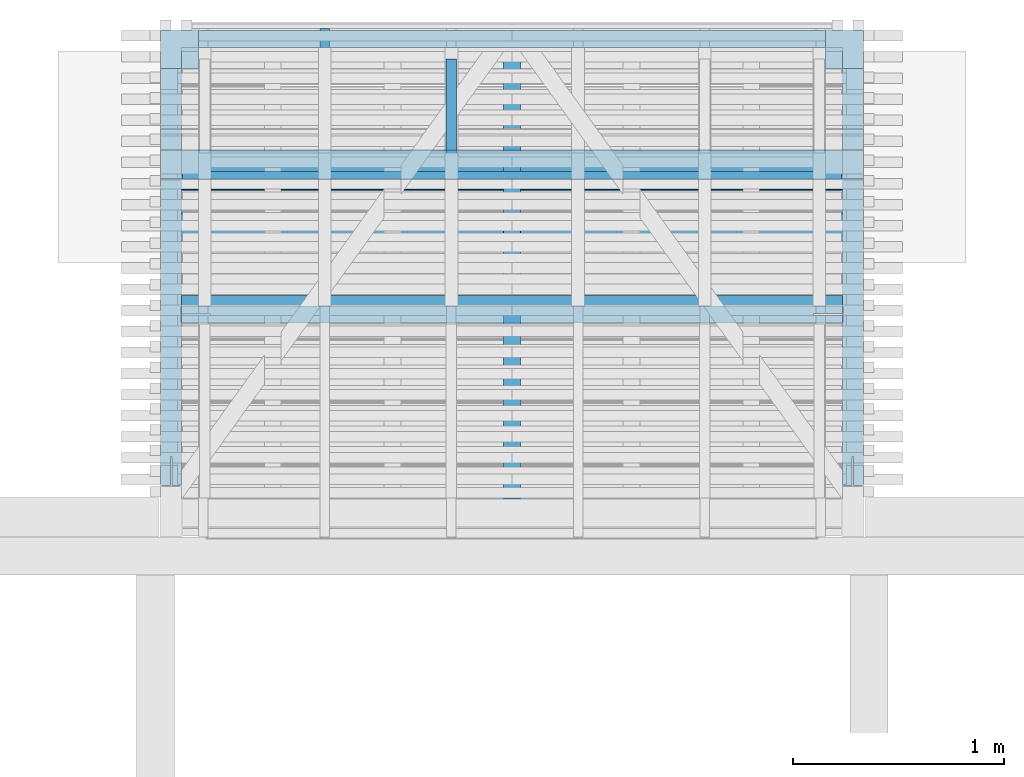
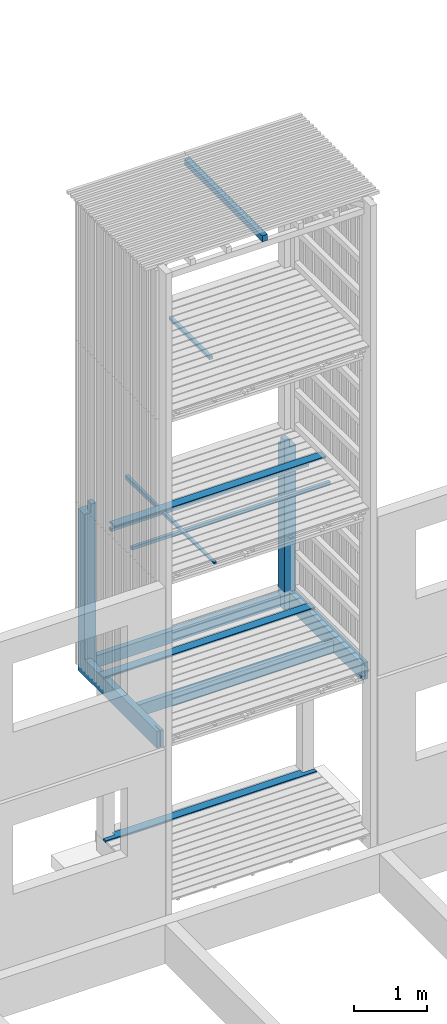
# One storey, part 22 of 182: 9 beams.
"""IFC2X3 building model written with IfcOpenShell, lengths in metres."""

from ifc_helpers import new_model, si_unit, frame, origin, place, context, project, spatial, faceted_brep, element, save


model = new_model("IFC2X3")

# Units and contexts
model_context = context("Model", 3, precision=1e-06, world=origin())
ifc_project = project(units=[si_unit("LENGTHUNIT", "METRE"), si_unit("PLANEANGLEUNIT", "RADIAN")], contexts=[model_context])

# Site, building, storey
site = spatial("IfcSite", under=ifc_project, CompositionType="ELEMENT")
building = spatial("IfcBuilding", under=site, CompositionType="ELEMENT")
storey = spatial("IfcBuildingStorey", under=building, Name="vs", CompositionType="ELEMENT", Elevation=-0.85)

# Beams
placement = place(None, origin())
beam_1_placement = place(placement, frame((4.979197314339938, 10.650077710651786, 10.404999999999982), z_axis=(0.0, 0.0, 1.0), x_axis=(0.0, 1.0, 0.0)))
element("IfcBeam", 1, at=beam_1_placement, inside=storey, Name="Support bardage", context=model_context, shape_type="Brep", body=[
    faceted_brep([(2.120000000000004, -0.039999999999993, 0.050000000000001), (2.120000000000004, 0.040000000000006, 0.050000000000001), (3e-15, 0.040000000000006, 0.050000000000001), (3e-15, -0.039999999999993, 0.050000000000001), (3e-15, 0.040000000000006, 0.050000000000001), (2.120000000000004, 0.040000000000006, 0.050000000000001), (2.120000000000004, 0.040000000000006, -0.050000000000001), (3e-15, 0.040000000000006, -0.050000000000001), (2.120000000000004, 0.040000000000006, 0.050000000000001), (2.120000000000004, -0.039999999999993, 0.050000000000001), (2.120000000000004, -0.039999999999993, -0.050000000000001), (2.120000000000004, 0.040000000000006, -0.050000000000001), (2.120000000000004, -0.039999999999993, -0.050000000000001), (2.120000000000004, -0.039999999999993, 0.050000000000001), (3e-15, -0.039999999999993, 0.050000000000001), (3e-15, -0.039999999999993, -0.050000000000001), (3e-15, 0.040000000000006, -0.050000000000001), (2.120000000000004, 0.040000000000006, -0.050000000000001), (2.120000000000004, -0.039999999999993, -0.050000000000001), (3e-15, -0.039999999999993, -0.050000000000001), (3e-15, 0.040000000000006, 0.050000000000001), (3e-15, 0.040000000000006, -0.050000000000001), (3e-15, -0.039999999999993, -0.050000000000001), (3e-15, -0.039999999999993, 0.050000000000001)], [[[0, 1, 2, 3]], [[4, 5, 6, 7]], [[8, 9, 10, 11]], [[12, 13, 14, 15]], [[16, 17, 18, 19]], [[20, 21, 22, 23]]]),
])
beam_2_placement = place(placement, frame((3.414197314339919, 11.59007771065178, 5.217399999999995), z_axis=(0.0, 0.0, 1.0), x_axis=(1.0, 0.0, 0.0)))
element("IfcBeam", 2, at=beam_2_placement, inside=storey, Name="Ligneul", context=model_context, shape_type="Brep", body=[
    faceted_brep([(4e-15, -0.024999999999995, 0.024999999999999), (4e-15, -0.024999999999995, -0.025), (3.129999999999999, -0.024999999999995, -0.025), (3.129999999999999, -0.024999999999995, 0.024999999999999), (4e-15, 0.025000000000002, 0.024999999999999), (4e-15, -0.024999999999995, 0.024999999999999), (3.129999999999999, -0.024999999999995, 0.024999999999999), (3.129999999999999, 0.025000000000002, 0.024999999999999), (4e-15, -0.024999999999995, 0.024999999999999), (4e-15, 0.025000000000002, 0.024999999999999), (4e-15, 0.025000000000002, -0.025), (4e-15, -0.024999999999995, -0.025), (4e-15, 0.025000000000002, -0.025), (4e-15, 0.025000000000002, 0.024999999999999), (3.129999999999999, 0.025000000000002, 0.024999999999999), (3.129999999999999, 0.025000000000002, -0.025), (3.129999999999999, -0.024999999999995, -0.025), (4e-15, -0.024999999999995, -0.025), (4e-15, 0.025000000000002, -0.025), (3.129999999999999, 0.025000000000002, -0.025), (3.129999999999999, -0.024999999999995, 0.024999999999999), (3.129999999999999, -0.024999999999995, -0.025), (3.129999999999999, 0.025000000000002, -0.025), (3.129999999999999, 0.025000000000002, 0.024999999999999)], [[[0, 1, 2, 3]], [[4, 5, 6, 7]], [[8, 9, 10, 11]], [[12, 13, 14, 15]], [[16, 17, 18, 19]], [[20, 21, 22, 23]]]),
])
beam_3_placement = place(placement, frame((4.692197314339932, 12.735077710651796, 7.91739999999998), z_axis=(0.0, 0.0, 1.0), x_axis=(0.0, -1.0, 0.0)))
element("IfcBeam", 3, at=beam_3_placement, inside=storey, Name="Calage", context=model_context, shape_type="Brep", body=[
    faceted_brep([(1.115000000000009, 0.024999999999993, 0.024999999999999), (1.115000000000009, -0.025000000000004, 0.024999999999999), (1.115000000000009, -0.025000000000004, -0.025), (1.115000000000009, 0.024999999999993, -0.025), (0.0, -0.025000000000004, -0.025), (0.0, -0.025000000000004, 0.024999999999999), (0.0, 0.024999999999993, 0.024999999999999), (0.0, 0.024999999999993, -0.025), (1.115000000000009, -0.025000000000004, 0.024999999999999), (1.115000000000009, 0.024999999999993, 0.024999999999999), (0.0, 0.024999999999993, 0.024999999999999), (0.0, -0.025000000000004, 0.024999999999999), (1.115000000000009, -0.025000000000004, -0.025), (1.115000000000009, -0.025000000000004, 0.024999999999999), (0.0, -0.025000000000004, 0.024999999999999), (0.0, -0.025000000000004, -0.025), (1.115000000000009, 0.024999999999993, -0.025), (1.115000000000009, -0.025000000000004, -0.025), (0.0, -0.025000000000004, -0.025), (0.0, 0.024999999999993, -0.025), (0.0, 0.024999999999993, 0.024999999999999), (1.115000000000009, 0.024999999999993, 0.024999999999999), (1.115000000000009, 0.024999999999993, -0.025), (0.0, 0.024999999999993, -0.025)], [[[0, 1, 2, 3]], [[4, 5, 6, 7]], [[8, 9, 10, 11]], [[12, 13, 14, 15]], [[16, 17, 18, 19]], [[20, 21, 22, 23]]]),
])
beam_4_placement = place(placement, frame((4.979197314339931, 11.792577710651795, 2.437999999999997), z_axis=(0.0, -1.0, 0.0), x_axis=(0.0, 0.0, 1.0)))
element("IfcBeam", 4, at=beam_4_placement, inside=storey, Name="Poteau", context=model_context, shape_type="Brep", body=[
    faceted_brep([(2.841999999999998, -1.564999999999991, -0.997499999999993), (2.701999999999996, -1.564999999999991, -0.997499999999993), (2.701999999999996, -1.484999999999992, -0.997499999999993), (2.841999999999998, -1.484999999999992, -0.997499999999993), (2.701999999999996, 1.664999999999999, -1.077499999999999), (2.701999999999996, 1.485000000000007, -1.077499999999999), (0.202000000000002, 1.485000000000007, -1.077499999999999), (0.202000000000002, -1.484999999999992, -1.077499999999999), (2.701999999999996, -1.484999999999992, -1.077499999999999), (2.701999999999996, -1.664999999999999, -1.077499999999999), (0.002000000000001, -1.664999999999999, -1.077499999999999), (0.002000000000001, 1.664999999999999, -1.077499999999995), (0.282000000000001, -1.664999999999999, 1.077499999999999), (0.002000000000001, -1.664999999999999, 1.077499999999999), (0.002000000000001, -1.664999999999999, -1.077499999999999), (2.701999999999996, -1.664999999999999, -1.077499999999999), (2.701999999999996, -1.664999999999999, -0.897499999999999), (0.282000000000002, -1.664999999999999, -0.897499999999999), (2.701999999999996, -1.664999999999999, -0.897499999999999), (2.701999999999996, -1.664999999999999, -1.077499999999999), (2.701999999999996, -1.484999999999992, -1.077499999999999), (2.701999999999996, -1.484999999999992, -0.997499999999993), (2.701999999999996, -1.564999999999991, -0.997499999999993), (2.701999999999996, -1.564999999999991, -0.897499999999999), (2.701999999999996, -1.564999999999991, -0.897499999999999), (2.701999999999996, -1.564999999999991, -0.997499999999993), (2.841999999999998, -1.564999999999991, -0.997499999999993), (2.841999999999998, -1.564999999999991, -0.897499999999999), (2.841999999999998, -1.564999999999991, -0.897499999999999), (2.841999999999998, -1.564999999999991, -0.997499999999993), (2.841999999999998, -1.484999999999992, -0.997499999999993), (2.841999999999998, -1.484999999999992, -0.897499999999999), (0.002000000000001, -1.564999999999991, -0.897499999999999), (0.282000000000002, -1.564999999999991, -0.897499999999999), (0.282000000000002, -1.664999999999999, -0.897499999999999), (2.701999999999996, -1.664999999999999, -0.897499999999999), (2.701999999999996, -1.564999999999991, -0.897499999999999), (2.841999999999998, -1.564999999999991, -0.897499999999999), (2.841999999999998, -1.484999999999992, -0.897499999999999), (0.002000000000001, -1.484999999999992, -0.897499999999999), (0.202000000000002, -1.484999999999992, -0.997499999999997), (0.002000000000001, -1.484999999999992, -0.997499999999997), (0.002000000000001, -1.484999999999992, -0.897499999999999), (2.841999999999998, -1.484999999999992, -0.897499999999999), (2.841999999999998, -1.484999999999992, -0.997499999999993), (2.701999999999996, -1.484999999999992, -0.997499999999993), (2.701999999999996, -1.484999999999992, -1.077499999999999), (0.202000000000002, -1.484999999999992, -1.077499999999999), (2.841999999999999, 1.565000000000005, -0.897499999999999), (2.701999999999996, 1.565000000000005, -0.897499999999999), (2.701999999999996, 1.664999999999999, -0.897499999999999), (0.282000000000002, 1.664999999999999, -0.897499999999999), (0.282000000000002, 1.565000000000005, -0.897499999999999), (0.002000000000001, 1.565000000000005, -0.897499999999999), (0.002000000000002, 1.485000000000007, -0.897499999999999), (2.841999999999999, 1.485000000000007, -0.897499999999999), (2.841999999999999, 1.485000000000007, -0.997499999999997), (2.841999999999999, 1.485000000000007, -0.897499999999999), (0.002000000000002, 1.485000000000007, -0.897499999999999), (0.002000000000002, 1.485000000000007, -0.997500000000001), (0.202000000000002, 1.485000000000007, -0.997500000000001), (0.202000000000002, 1.485000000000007, -1.077499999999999), (2.701999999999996, 1.485000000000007, -1.077499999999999), (2.701999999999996, 1.485000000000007, -0.997499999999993), (2.701999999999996, 1.664999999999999, -1.077499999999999), (0.002000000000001, 1.664999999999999, -1.077499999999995), (0.002000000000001, 1.664999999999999, 1.077499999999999), (0.282000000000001, 1.664999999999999, 1.077499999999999), (0.282000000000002, 1.664999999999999, -0.897499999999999), (2.701999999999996, 1.664999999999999, -0.897499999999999), (0.202000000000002, 1.485000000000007, -0.997500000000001), (0.002000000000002, 1.485000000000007, -0.997500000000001), (0.002000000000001, -1.484999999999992, -0.997499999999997), (0.202000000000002, -1.484999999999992, -0.997499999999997), (0.202000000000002, -1.484999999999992, -1.077499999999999), (0.202000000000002, 1.485000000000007, -1.077499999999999), (0.202000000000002, 1.485000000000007, -0.997500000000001), (0.202000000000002, -1.484999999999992, -0.997499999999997), (0.002000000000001, -1.42799999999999, 0.263500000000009), (0.002, -1.564999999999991, 0.263500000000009), (0.177, -1.564999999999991, 0.263500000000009), (0.202000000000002, -1.564999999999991, 0.263500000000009), (0.202000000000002, -1.42799999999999, 0.263500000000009), (0.002000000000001, -1.42799999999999, 0.271500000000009), (0.002000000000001, -1.42799999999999, 0.263500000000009), (0.202000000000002, -1.42799999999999, 0.263500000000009), (0.202000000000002, -1.42799999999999, 0.271500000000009), (0.177, -1.564999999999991, 0.271500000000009), (0.002, -1.564999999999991, 0.271500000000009), (0.002000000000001, -1.42799999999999, 0.271500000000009), (0.202000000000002, -1.42799999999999, 0.271500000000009), (0.202000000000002, -1.564999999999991, 0.271500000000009), (0.177, -1.564999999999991, 0.263500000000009), (0.002, -1.564999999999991, 0.263500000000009), (0.002, -1.564999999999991, 0.22950000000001), (0.177, -1.564999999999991, 0.22950000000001), (0.202000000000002, -1.564999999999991, 0.271500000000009), (0.202000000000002, -1.42799999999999, 0.271500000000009), (0.202000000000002, -1.42799999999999, 0.263500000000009), (0.202000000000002, -1.564999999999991, 0.263500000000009), (0.202000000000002, -1.564999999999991, 0.227500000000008), (0.202000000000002, 1.565000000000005, 0.227500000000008), (0.202000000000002, 1.565000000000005, 0.30750000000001), (0.202000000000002, -1.564999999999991, 0.30750000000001), (0.002000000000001, 1.565000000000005, 0.227500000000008), (0.202000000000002, 1.565000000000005, 0.227500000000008), (0.202000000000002, -1.564999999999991, 0.227500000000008), (0.002, -1.564999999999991, 0.227500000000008), (0.202000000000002, -1.564999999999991, 0.30750000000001), (0.202000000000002, 1.565000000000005, 0.30750000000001), (0.002000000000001, 1.565000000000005, 0.30750000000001), (0.002, -1.564999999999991, 0.30750000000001), (0.002, -1.564999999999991, 0.305500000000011), (0.002, -1.564999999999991, 0.271500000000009), (0.177, -1.564999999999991, 0.271500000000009), (0.177, -1.564999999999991, 0.305500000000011), (0.002, -1.564999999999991, 0.227500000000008), (0.202000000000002, -1.564999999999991, 0.227500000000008), (0.202000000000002, -1.564999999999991, 0.263500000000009), (0.177, -1.564999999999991, 0.263500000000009), (0.177, -1.564999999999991, 0.271500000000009), (0.202000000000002, -1.564999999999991, 0.271500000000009), (0.202000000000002, -1.564999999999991, 0.30750000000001), (0.002, -1.564999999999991, 0.30750000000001), (0.002000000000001, -1.564999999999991, 1.077499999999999), (0.282000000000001, -1.564999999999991, 1.077499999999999), (0.282000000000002, -1.564999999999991, -0.897499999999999), (0.002000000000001, -1.564999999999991, -0.897499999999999), (0.002, -1.569999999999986, 0.22950000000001), (0.002, -1.569999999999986, 0.305500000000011), (0.177, -1.569999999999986, 0.305500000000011), (0.177, -1.569999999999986, 0.22950000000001), (0.177, -1.564999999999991, 0.271500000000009), (0.177, -1.564999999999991, 0.263500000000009), (0.177, -1.564999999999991, 0.22950000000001), (0.177, -1.569999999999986, 0.22950000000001), (0.177, -1.569999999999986, 0.305500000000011), (0.177, -1.564999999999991, 0.305500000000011), (0.177, -1.564999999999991, 0.22950000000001), (0.002, -1.564999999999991, 0.22950000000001), (0.002, -1.569999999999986, 0.22950000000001), (0.177, -1.569999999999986, 0.22950000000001), (0.177, -1.569999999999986, 0.305500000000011), (0.002, -1.569999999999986, 0.305500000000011), (0.002, -1.564999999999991, 0.305500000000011), (0.177, -1.564999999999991, 0.305500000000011), (0.002000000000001, -1.610999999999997, 0.940500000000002), (0.002000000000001, -1.618999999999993, 0.940500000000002), (0.282000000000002, -1.618999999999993, 0.940500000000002), (0.282000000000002, -1.610999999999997, 0.940500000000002), (0.282000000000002, -1.618999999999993, 0.940500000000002), (0.002000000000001, -1.618999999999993, 0.940500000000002), (0.002000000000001, -1.618999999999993, 1.077499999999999), (0.282000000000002, -1.618999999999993, 1.077500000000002), (0.002000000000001, -1.664999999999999, 1.077499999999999), (0.282000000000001, -1.664999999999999, 1.077499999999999), (0.282000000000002, -1.618999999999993, 1.077500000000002), (0.002000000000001, -1.618999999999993, 1.077499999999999), (0.282000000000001, -1.564999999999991, 1.077499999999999), (0.002000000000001, -1.564999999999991, 1.077499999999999), (0.002000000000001, -1.610999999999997, 1.077499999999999), (0.282000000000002, -1.610999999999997, 1.077500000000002), (0.282000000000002, -1.610999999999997, 1.077500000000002), (0.002000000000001, -1.610999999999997, 1.077499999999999), (0.002000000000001, -1.610999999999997, 0.940500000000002), (0.282000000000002, -1.610999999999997, 0.940500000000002), (0.282000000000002, -1.564999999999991, -0.897499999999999), (0.282000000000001, -1.564999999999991, 1.077499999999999), (0.282000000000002, -1.610999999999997, 1.077500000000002), (0.282000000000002, -1.610999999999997, 0.940500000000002), (0.282000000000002, -1.618999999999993, 0.940500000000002), (0.282000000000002, -1.618999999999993, 1.077500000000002), (0.282000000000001, -1.664999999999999, 1.077499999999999), (0.282000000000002, -1.664999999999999, -0.897499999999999), (0.002000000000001, 1.619000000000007, 0.940499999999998), (0.002000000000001, 1.611000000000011, 0.940499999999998), (0.282000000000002, 1.611000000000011, 0.940499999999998), (0.282000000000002, 1.619000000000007, 0.940499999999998), (0.282000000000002, 1.611000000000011, 0.940499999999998), (0.002000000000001, 1.611000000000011, 0.940499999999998), (0.002000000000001, 1.611000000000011, 1.077499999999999), (0.282000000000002, 1.611000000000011, 1.077499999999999), (0.002000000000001, 1.565000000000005, 1.077499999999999), (0.282000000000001, 1.565000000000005, 1.077499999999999), (0.282000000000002, 1.611000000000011, 1.077499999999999), (0.002000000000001, 1.611000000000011, 1.077499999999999), (0.282000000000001, 1.664999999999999, 1.077499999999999), (0.002000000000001, 1.664999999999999, 1.077499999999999), (0.002000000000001, 1.619000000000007, 1.077499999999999), (0.282000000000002, 1.619000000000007, 1.077499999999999), (0.282000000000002, 1.619000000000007, 1.077499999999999), (0.002000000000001, 1.619000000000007, 1.077499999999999), (0.002000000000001, 1.619000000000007, 0.940499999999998), (0.282000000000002, 1.619000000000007, 0.940499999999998), (0.282000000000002, 1.664999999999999, -0.897499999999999), (0.282000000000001, 1.664999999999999, 1.077499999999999), (0.282000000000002, 1.619000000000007, 1.077499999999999), (0.282000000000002, 1.619000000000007, 0.940499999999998), (0.282000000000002, 1.611000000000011, 0.940499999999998), (0.282000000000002, 1.611000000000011, 1.077499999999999), (0.282000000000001, 1.565000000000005, 1.077499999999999), (0.282000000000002, 1.565000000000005, -0.897499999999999), (0.202000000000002, 1.565000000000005, 0.227500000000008), (0.002000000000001, 1.565000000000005, 0.227500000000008), (0.002000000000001, 1.565000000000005, -0.897499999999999), (0.282000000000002, 1.565000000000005, -0.897499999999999), (0.282000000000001, 1.565000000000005, 1.077499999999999), (0.002000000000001, 1.565000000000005, 1.077499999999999), (0.002000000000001, 1.565000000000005, 0.30750000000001), (0.202000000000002, 1.565000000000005, 0.30750000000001), (0.002, 1.442250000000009, 0.249000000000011), (0.002, 1.442250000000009, 0.28600000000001), (1e-15, 1.442250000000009, 0.28600000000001), (1e-15, 1.442250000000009, 0.249000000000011), (0.002, 1.442250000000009, 0.249000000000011), (1e-15, 1.442250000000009, 0.249000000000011), (0.0, 1.565750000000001, 0.249000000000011), (0.002, 1.565750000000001, 0.249000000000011), (1e-15, 1.442250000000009, 0.28600000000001), (0.002, 1.442250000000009, 0.28600000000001), (0.002, 1.565750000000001, 0.28600000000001), (0.0, 1.565750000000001, 0.28600000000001), (1e-15, 1.442250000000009, 0.249000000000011), (1e-15, 1.442250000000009, 0.28600000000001), (0.0, 1.565750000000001, 0.28600000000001), (0.0, 1.565750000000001, 0.249000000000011), (0.0, 1.565750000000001, 0.249000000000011), (0.0, 1.565750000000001, 0.28600000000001), (0.002, 1.565750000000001, 0.28600000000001), (0.002, 1.565750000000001, 0.249000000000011), (0.002000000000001, 1.565000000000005, 0.30750000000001), (0.002000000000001, 1.565000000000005, 1.077499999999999), (0.002000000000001, 1.611000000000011, 1.077499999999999), (0.002000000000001, 1.611000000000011, 0.940499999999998), (0.002000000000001, 1.619000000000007, 0.940499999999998), (0.002000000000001, 1.619000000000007, 1.077499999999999), (0.002000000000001, 1.664999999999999, 1.077499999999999), (0.002000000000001, 1.664999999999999, -1.077499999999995), (0.002000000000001, -1.664999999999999, -1.077499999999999), (0.002000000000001, -1.664999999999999, 1.077499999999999), (0.002000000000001, -1.618999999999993, 1.077499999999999), (0.002000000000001, -1.618999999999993, 0.940500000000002), (0.002000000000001, -1.610999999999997, 0.940500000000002), (0.002000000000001, -1.610999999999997, 1.077499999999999), (0.002000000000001, -1.564999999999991, 1.077499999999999), (0.002, -1.564999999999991, 0.30750000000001), (0.002, -1.564999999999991, 0.271500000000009), (0.002, -1.564999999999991, 0.305500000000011), (0.002, -1.569999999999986, 0.305500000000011), (0.002, -1.569999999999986, 0.22950000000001), (0.002, -1.564999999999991, 0.22950000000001), (0.002, -1.564999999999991, 0.263500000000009), (0.002000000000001, -1.42799999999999, 0.263500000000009), (0.002000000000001, -1.42799999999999, 0.271500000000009), (0.002000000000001, 1.565000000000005, -0.897499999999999), (0.002000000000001, 1.565000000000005, 0.227500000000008), (0.002, -1.564999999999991, 0.227500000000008), (0.002000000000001, -1.564999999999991, -0.897499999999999), (0.002000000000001, -1.484999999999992, -0.897499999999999), (0.002000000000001, -1.484999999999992, -0.997499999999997), (0.002000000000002, 1.485000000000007, -0.997500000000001), (0.002000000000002, 1.485000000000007, -0.897499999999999), (0.002, 1.565750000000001, 0.249000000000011), (0.002, 1.565750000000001, 0.28600000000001), (0.002, 1.442250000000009, 0.28600000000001), (0.002, 1.442250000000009, 0.249000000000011), (2.841999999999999, 1.485000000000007, -0.997499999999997), (2.701999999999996, 1.485000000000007, -0.997499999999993), (2.701999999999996, 1.565000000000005, -0.997499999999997), (2.841999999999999, 1.565000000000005, -0.997499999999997), (2.841999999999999, 1.565000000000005, -0.897499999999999), (2.841999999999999, 1.485000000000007, -0.897499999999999), (2.841999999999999, 1.485000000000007, -0.997499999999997), (2.841999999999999, 1.565000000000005, -0.997499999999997), (2.701999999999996, 1.565000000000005, -0.897499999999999), (2.841999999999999, 1.565000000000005, -0.897499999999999), (2.841999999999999, 1.565000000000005, -0.997499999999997), (2.701999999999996, 1.565000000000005, -0.997499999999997), (2.701999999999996, 1.664999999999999, -1.077499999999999), (2.701999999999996, 1.664999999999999, -0.897499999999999), (2.701999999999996, 1.565000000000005, -0.897499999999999), (2.701999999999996, 1.565000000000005, -0.997499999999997), (2.701999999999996, 1.485000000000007, -0.997499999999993), (2.701999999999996, 1.485000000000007, -1.077499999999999)], [[[0, 1, 2, 3]], [[4, 5, 6, 7, 8, 9, 10, 11]], [[12, 13, 14, 15, 16, 17]], [[18, 19, 20, 21, 22, 23]], [[24, 25, 26, 27]], [[28, 29, 30, 31]], [[32, 33, 34, 35, 36, 37, 38, 39]], [[40, 41, 42, 43, 44, 45, 46, 47]], [[48, 49, 50, 51, 52, 53, 54, 55]], [[56, 57, 58, 59, 60, 61, 62, 63]], [[64, 65, 66, 67, 68, 69]], [[70, 71, 72, 73]], [[74, 75, 76, 77]], [[78, 79, 80, 81, 82]], [[83, 84, 85, 86]], [[87, 88, 89, 90, 91]], [[92, 93, 94, 95]], [[96, 97, 98, 99, 100, 101, 102, 103]], [[104, 105, 106, 107]], [[108, 109, 110, 111]], [[112, 113, 114, 115]], [[116, 117, 118, 119, 120, 121, 122, 123, 124, 125, 126, 127]], [[128, 129, 130, 131]], [[132, 133, 134, 135, 136, 137]], [[138, 139, 140, 141]], [[142, 143, 144, 145]], [[146, 147, 148, 149]], [[150, 151, 152, 153]], [[154, 155, 156, 157]], [[158, 159, 160, 161]], [[162, 163, 164, 165]], [[166, 167, 168, 169, 170, 171, 172, 173]], [[174, 175, 176, 177]], [[178, 179, 180, 181]], [[182, 183, 184, 185]], [[186, 187, 188, 189]], [[190, 191, 192, 193]], [[194, 195, 196, 197, 198, 199, 200, 201]], [[202, 203, 204, 205, 206, 207, 208, 209]], [[210, 211, 212, 213]], [[214, 215, 216, 217]], [[218, 219, 220, 221]], [[222, 223, 224, 225]], [[226, 227, 228, 229]], [[230, 231, 232, 233, 234, 235, 236, 237, 238, 239, 240, 241, 242, 243, 244, 245], [246, 247, 248, 249, 250, 251, 252, 253], [254, 255, 256, 257, 258, 259, 260, 261], [262, 263, 264, 265]], [[266, 267, 268, 269]], [[270, 271, 272, 273]], [[274, 275, 276, 277]], [[278, 279, 280, 281, 282, 283]]]),
])
beam_5_placement = place(placement, frame((6.644197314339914, 11.93457771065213, 5.433499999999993), z_axis=(0.0, 0.0, 1.0), x_axis=(-1.0, -8e-15, 0.0)))
element("IfcBeam", 5, at=beam_5_placement, inside=storey, Name="Caillebotis", context=model_context, shape_type="Brep", body=[
    faceted_brep([(3.329999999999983, -0.072500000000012, -0.0135), (3.329999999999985, 0.072499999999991, -0.0135), (3.329999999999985, 0.072499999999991, 0.0085), (3.329999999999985, 0.067499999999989, 0.0135), (3.329999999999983, -0.067500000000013, 0.0135), (3.329999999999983, -0.072500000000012, 0.008500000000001), (-1.5e-14, -0.072499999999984, 0.008500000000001), (-1.5e-14, -0.067499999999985, 0.0135), (-1.4e-14, 0.067500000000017, 0.0135), (-1.4e-14, 0.072500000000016, 0.0085), (-1.4e-14, 0.072500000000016, -0.0135), (-1.5e-14, -0.072499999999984, -0.0135), (3.329999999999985, 0.072499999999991, 0.0085), (3.329999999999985, 0.072499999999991, -0.0135), (-1.4e-14, 0.072500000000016, -0.0135), (-1.4e-14, 0.072500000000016, 0.0085), (3.329999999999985, 0.067499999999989, 0.0135), (3.329999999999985, 0.072499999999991, 0.0085), (-1.4e-14, 0.072500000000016, 0.0085), (-1.4e-14, 0.067500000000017, 0.0135), (3.329999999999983, -0.067500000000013, 0.0135), (3.329999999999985, 0.067499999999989, 0.0135), (-1.4e-14, 0.067500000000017, 0.0135), (-1.5e-14, -0.067499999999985, 0.0135), (3.329999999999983, -0.072500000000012, 0.008500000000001), (3.329999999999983, -0.067500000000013, 0.0135), (-1.5e-14, -0.067499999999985, 0.0135), (-1.5e-14, -0.072499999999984, 0.008500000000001), (3.329999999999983, -0.072500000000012, -0.0135), (3.329999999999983, -0.072500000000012, 0.008500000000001), (-1.5e-14, -0.072499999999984, 0.008500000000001), (-1.5e-14, -0.072499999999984, -0.0135), (-1.4e-14, 0.072500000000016, -0.0135), (3.329999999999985, 0.072499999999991, -0.0135), (3.329999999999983, -0.072500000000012, -0.0135), (-1.5e-14, -0.072499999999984, -0.0135)], [[[0, 1, 2, 3, 4, 5]], [[6, 7, 8, 9, 10, 11]], [[12, 13, 14, 15]], [[16, 17, 18, 19]], [[20, 21, 22, 23]], [[24, 25, 26, 27]], [[28, 29, 30, 31]], [[32, 33, 34, 35]]]),
])
beam_6_placement = place(placement, frame((6.644197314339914, 12.18457771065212, 0.033500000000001), z_axis=(0.0, 0.0, 1.0), x_axis=(-1.0, 0.0, 0.0)))
element("IfcBeam", 6, at=beam_6_placement, inside=storey, Name="Caillebotis", context=model_context, shape_type="Brep", body=[
    faceted_brep([(0.184999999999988, -0.000499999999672, -0.0135), (0.184999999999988, -0.072499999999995, -0.0135), (0.184999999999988, -0.072499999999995, 0.008500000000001), (0.184999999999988, -0.067499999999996, 0.0135), (0.184999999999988, -0.000499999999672, 0.0135), (3.329999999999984, -0.000499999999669, 0.0135), (3.329999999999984, -0.000499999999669, -0.013500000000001), (3.329999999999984, 0.072500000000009, -0.013500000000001), (3.329999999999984, 0.072500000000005, 0.0085), (3.329999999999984, 0.067500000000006, 0.0135), (3.144999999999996, -0.072499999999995, 0.008500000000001), (3.144999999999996, -0.072499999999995, -0.013500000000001), (3.144999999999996, -0.000499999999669, -0.013500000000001), (3.144999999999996, -0.000499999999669, 0.0135), (3.144999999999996, -0.067499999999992, 0.0135), (3.144999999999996, -0.000499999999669, 0.0135), (3.144999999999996, -0.000499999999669, -0.013500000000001), (3.329999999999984, -0.000499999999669, -0.013500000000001), (3.329999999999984, -0.000499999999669, 0.0135), (0.184999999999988, -0.067499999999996, 0.0135), (0.184999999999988, -0.072499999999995, 0.008500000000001), (3.144999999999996, -0.072499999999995, 0.008500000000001), (3.144999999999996, -0.067499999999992, 0.0135), (0.184999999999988, -0.072499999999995, 0.008500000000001), (0.184999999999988, -0.072499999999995, -0.0135), (3.144999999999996, -0.072499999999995, -0.013500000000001), (3.144999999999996, -0.072499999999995, 0.008500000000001), (0.0, 0.072500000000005, -0.0135), (0.0, -0.000499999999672, -0.0135), (0.0, -0.000499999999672, 0.0135), (0.0, 0.067500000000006, 0.0135), (0.0, 0.072500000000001, 0.0085), (0.184999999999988, -0.000499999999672, 0.0135), (0.184999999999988, -0.067499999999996, 0.0135), (3.144999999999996, -0.067499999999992, 0.0135), (3.144999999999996, -0.000499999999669, 0.0135), (3.329999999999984, -0.000499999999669, 0.0135), (3.329999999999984, 0.067500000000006, 0.0135), (0.0, 0.067500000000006, 0.0135), (0.0, -0.000499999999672, 0.0135), (0.184999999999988, -0.000499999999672, -0.0135), (0.184999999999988, -0.000499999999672, 0.0135), (0.0, -0.000499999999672, 0.0135), (0.0, -0.000499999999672, -0.0135), (3.329999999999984, 0.072500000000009, -0.013500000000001), (3.329999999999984, -0.000499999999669, -0.013500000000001), (3.144999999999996, -0.000499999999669, -0.013500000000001), (3.144999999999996, -0.072499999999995, -0.013500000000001), (0.184999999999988, -0.072499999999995, -0.0135), (0.184999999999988, -0.000499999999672, -0.0135), (0.0, -0.000499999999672, -0.0135), (0.0, 0.072500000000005, -0.0135), (3.329999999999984, 0.072500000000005, 0.0085), (3.329999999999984, 0.072500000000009, -0.013500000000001), (0.0, 0.072500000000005, -0.0135), (0.0, 0.072500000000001, 0.0085), (0.0, 0.067500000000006, 0.0135), (3.329999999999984, 0.067500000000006, 0.0135), (3.329999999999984, 0.072500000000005, 0.0085), (0.0, 0.072500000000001, 0.0085)], [[[0, 1, 2, 3, 4]], [[5, 6, 7, 8, 9]], [[10, 11, 12, 13, 14]], [[15, 16, 17, 18]], [[19, 20, 21, 22]], [[23, 24, 25, 26]], [[27, 28, 29, 30, 31]], [[32, 33, 34, 35, 36, 37, 38, 39]], [[40, 41, 42, 43]], [[44, 45, 46, 47, 48, 49, 50, 51]], [[52, 53, 54, 55]], [[56, 57, 58, 59]]]),
])
beam_7_placement = place(placement, frame((4.092197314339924, 10.470077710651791, 5.384400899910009), z_axis=(0.0, 0.0, 1.0), x_axis=(0.0, 1.0, 0.0)))
element("IfcBeam", 7, at=beam_7_placement, inside=storey, Name="Calage", context=model_context, shape_type="Brep", body=[
    faceted_brep([(2.41000000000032, -0.022500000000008, -0.035599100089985), (0.0, -0.022500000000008, 0.012600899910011), (0.0, 0.022499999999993, 0.012600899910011), (2.41000000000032, 0.022499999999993, -0.035599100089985), (0.0, 0.022499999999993, 0.035599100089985), (0.0, 0.022499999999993, 0.012600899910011), (0.0, -0.022500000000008, 0.012600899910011), (0.0, -0.022500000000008, 0.035599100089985), (2.41000000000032, 0.022499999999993, -0.035599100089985), (0.0, 0.022499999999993, 0.012600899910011), (0.0, 0.022499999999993, 0.035599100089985), (2.41000000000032, 0.022499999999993, 0.035599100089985), (2.41000000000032, -0.022500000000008, 0.035599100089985), (0.0, -0.022500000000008, 0.035599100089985), (0.0, -0.022500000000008, 0.012600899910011), (2.41000000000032, -0.022500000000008, -0.035599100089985), (2.41000000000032, 0.022499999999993, 0.035599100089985), (0.0, 0.022499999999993, 0.035599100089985), (0.0, -0.022500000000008, 0.035599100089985), (2.41000000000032, -0.022500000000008, 0.035599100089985), (2.41000000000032, 0.022499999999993, -0.035599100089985), (2.41000000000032, 0.022499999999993, 0.035599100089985), (2.41000000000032, -0.022500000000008, 0.035599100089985), (2.41000000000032, -0.022500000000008, -0.035599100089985)], [[[0, 1, 2, 3]], [[4, 5, 6, 7]], [[8, 9, 10, 11]], [[12, 13, 14, 15]], [[16, 17, 18, 19]], [[20, 21, 22, 23]]]),
])
beam_8_placement = place(placement, frame((6.539197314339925, 12.177577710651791, 5.167399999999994), z_axis=(0.0, 0.0, 1.0), x_axis=(-1.0, -1e-15, 0.0)))
element("IfcBeam", 8, at=beam_8_placement, inside=storey, Name="Bardage", context=model_context, shape_type="Brep", body=[
    faceted_brep([(3.120000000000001, 0.024999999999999, 0.024999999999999), (3.120000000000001, -0.025000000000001, 0.024999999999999), (3.120000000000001, -0.025000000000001, -0.024999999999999), (3.120000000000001, 0.024999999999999, -0.024999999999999), (-3e-15, -0.024999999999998, 0.024999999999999), (-3e-15, 0.025000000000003, 0.024999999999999), (-3e-15, 0.025000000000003, -0.024999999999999), (-3e-15, -0.024999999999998, -0.024999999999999), (-3e-15, -0.024999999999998, -0.024999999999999), (-3e-15, 0.025000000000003, -0.024999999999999), (3.120000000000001, 0.024999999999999, -0.024999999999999), (3.120000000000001, -0.025000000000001, -0.024999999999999), (-3e-15, -0.024999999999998, -0.024999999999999), (3.120000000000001, -0.025000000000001, -0.024999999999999), (3.120000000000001, -0.025000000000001, 0.024999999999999), (-3e-15, -0.024999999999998, 0.024999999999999), (3.120000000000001, 0.024999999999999, 0.024999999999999), (3.120000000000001, 0.024999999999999, -0.024999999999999), (-3e-15, 0.025000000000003, -0.024999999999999), (-3e-15, 0.025000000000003, 0.024999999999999), (3.120000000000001, 0.024999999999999, 0.024999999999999), (-3e-15, 0.025000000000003, 0.024999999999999), (-3e-15, -0.024999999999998, 0.024999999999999), (3.120000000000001, -0.025000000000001, 0.024999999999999)], [[[0, 1, 2, 3]], [[4, 5, 6, 7]], [[8, 9, 10, 11]], [[12, 13, 14, 15]], [[16, 17, 18, 19]], [[20, 21, 22, 23]]]),
])
beam_9_placement = place(placement, frame((6.644197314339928, 12.234577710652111, 2.733499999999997), z_axis=(0.0, 0.0, 1.0), x_axis=(-1.0, 0.0, 0.0)))
element("IfcBeam", 9, at=beam_9_placement, inside=storey, Name="Caillebotis", context=model_context, shape_type="Brep", body=[
    faceted_brep([(3.329999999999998, -0.072499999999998, -0.0135), (3.329999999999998, 0.072499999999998, -0.0135), (3.329999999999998, 0.072499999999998, 0.0085), (3.329999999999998, 0.067500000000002, 0.0135), (3.329999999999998, -0.067500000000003, 0.0135), (3.329999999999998, -0.072499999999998, 0.008500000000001), (0.0, -0.072500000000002, 0.008500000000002), (0.0, -0.067500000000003, 0.0135), (0.0, 0.067499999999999, 0.0135), (0.0, 0.072499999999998, 0.0085), (0.0, 0.072499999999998, -0.0135), (0.0, -0.072500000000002, -0.0135), (3.329999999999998, 0.072499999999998, 0.0085), (3.329999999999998, 0.072499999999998, -0.0135), (0.0, 0.072499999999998, -0.0135), (0.0, 0.072499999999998, 0.0085), (3.329999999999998, 0.067500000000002, 0.0135), (3.329999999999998, 0.072499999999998, 0.0085), (0.0, 0.072499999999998, 0.0085), (0.0, 0.067499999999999, 0.0135), (3.329999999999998, -0.067500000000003, 0.0135), (3.329999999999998, 0.067500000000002, 0.0135), (0.0, 0.067499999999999, 0.0135), (0.0, -0.067500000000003, 0.0135), (3.329999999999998, -0.072499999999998, 0.008500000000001), (3.329999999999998, -0.067500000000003, 0.0135), (0.0, -0.067500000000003, 0.0135), (0.0, -0.072500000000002, 0.008500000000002), (3.329999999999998, -0.072499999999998, -0.0135), (3.329999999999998, -0.072499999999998, 0.008500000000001), (0.0, -0.072500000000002, 0.008500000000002), (0.0, -0.072500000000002, -0.0135), (0.0, 0.072499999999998, -0.0135), (3.329999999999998, 0.072499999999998, -0.0135), (3.329999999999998, -0.072499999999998, -0.0135), (0.0, -0.072500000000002, -0.0135)], [[[0, 1, 2, 3, 4, 5]], [[6, 7, 8, 9, 10, 11]], [[12, 13, 14, 15]], [[16, 17, 18, 19]], [[20, 21, 22, 23]], [[24, 25, 26, 27]], [[28, 29, 30, 31]], [[32, 33, 34, 35]]]),
])

save(model, "model.ifc")
